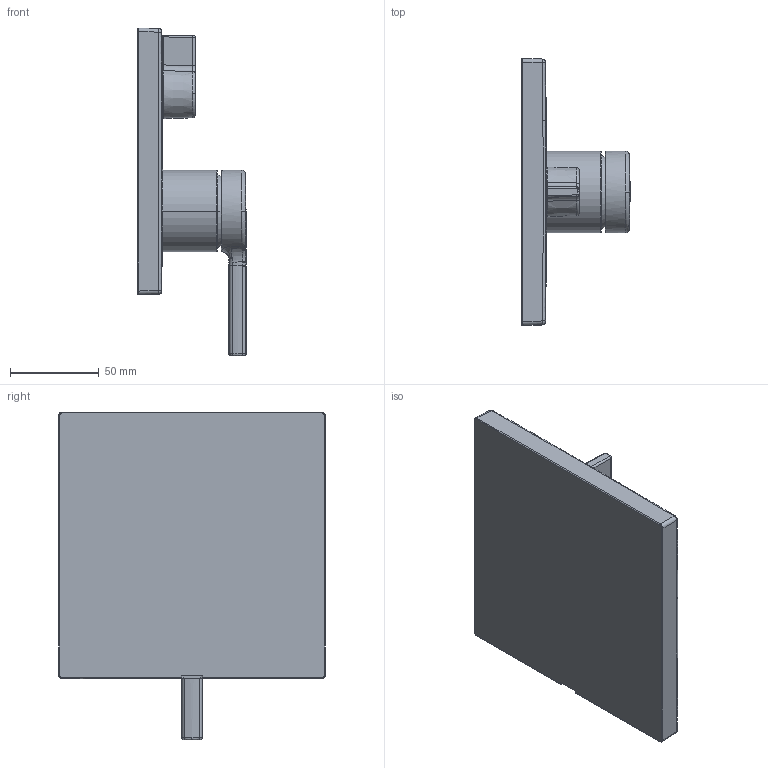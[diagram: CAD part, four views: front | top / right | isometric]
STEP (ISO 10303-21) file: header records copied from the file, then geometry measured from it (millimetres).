
FILE_DESCRIPTION((''),'2;1');
FILE_NAME('20464500','2020-07-21T11:08:43',('LT980'),(''),'CREO PARAMETRIC BY PTC INC, 2018500','CREO PARAMETRIC BY PTC INC, 2018500','');
FILE_SCHEMA(('CONFIG_CONTROL_DESIGN'));
Length unit declared in the file: millimetre
Products named in the file (1): 20464500
Bounding box: 61.19 x 149.97 x 184.49 mm (x, y, z)
Volume: 402938.1 mm3; surface area: 65181.1 mm2
Topology: 3 solids, 3 shells, 226 faces, 546 edges, 326 vertices
Faces by surface type: bspline 99, plane 55, cylinder 45, torus 15, sphere 5, revolution 4, cone 3
Entity records: 13395 total; most frequent: CARTESIAN_POINT 8898, ORIENTED_EDGE 1082, DIRECTION 660, EDGE_CURVE 541, VERTEX_POINT 326, B_SPLINE_CURVE_WITH_KNOTS 257, AXIS2_PLACEMENT_3D 245, EDGE_LOOP 231
